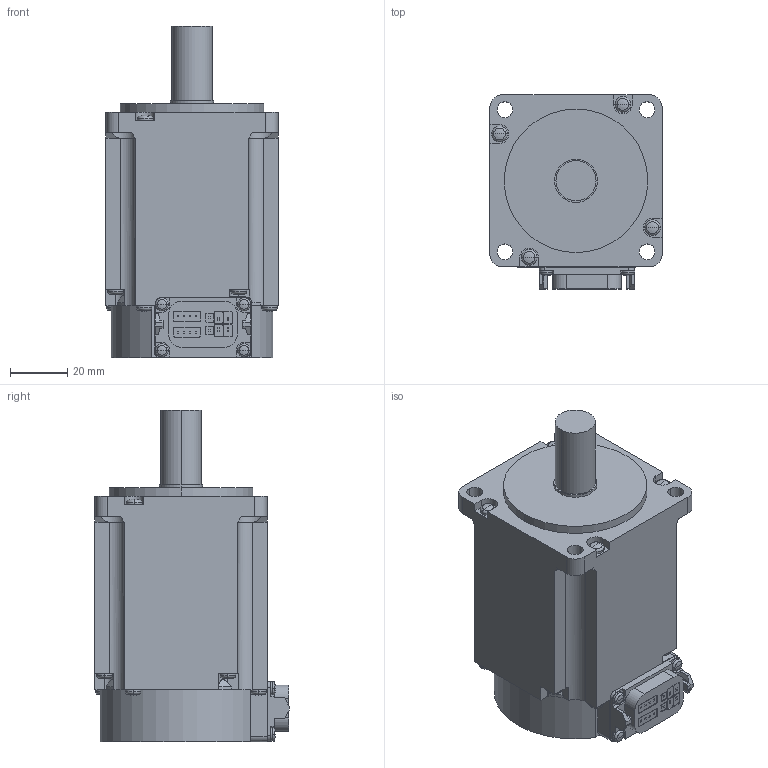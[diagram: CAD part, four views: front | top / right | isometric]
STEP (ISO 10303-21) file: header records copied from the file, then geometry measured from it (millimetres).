
FILE_DESCRIPTION((''),'2;1');
FILE_NAME('HK-KT43W_-_ASM','2019-01-15T',('XE90682'),(''),'CREO PARAMETRIC BY PTC INC, 2016380','CREO PARAMETRIC BY PTC INC, 2016380','');
FILE_SCHEMA(('CONFIG_CONTROL_DESIGN'));
Length unit declared in the file: millimetre
Products named in the file (1): HK-KT43W_-_ASM
Bounding box: 60 x 67.65 x 115.5 mm (x, y, z)
Volume: 278263.9 mm3; surface area: 29517.7 mm2
Topology: 1 solids, 1 shells, 401 faces, 1042 edges, 654 vertices
Faces by surface type: plane 221, cylinder 113, torus 32, sphere 32, cone 3
Entity records: 12257 total; most frequent: CARTESIAN_POINT 2297, DIRECTION 2120, ORIENTED_EDGE 2020, EDGE_CURVE 1010, AXIS2_PLACEMENT_3D 726, VECTOR 668, LINE 668, VERTEX_POINT 654
